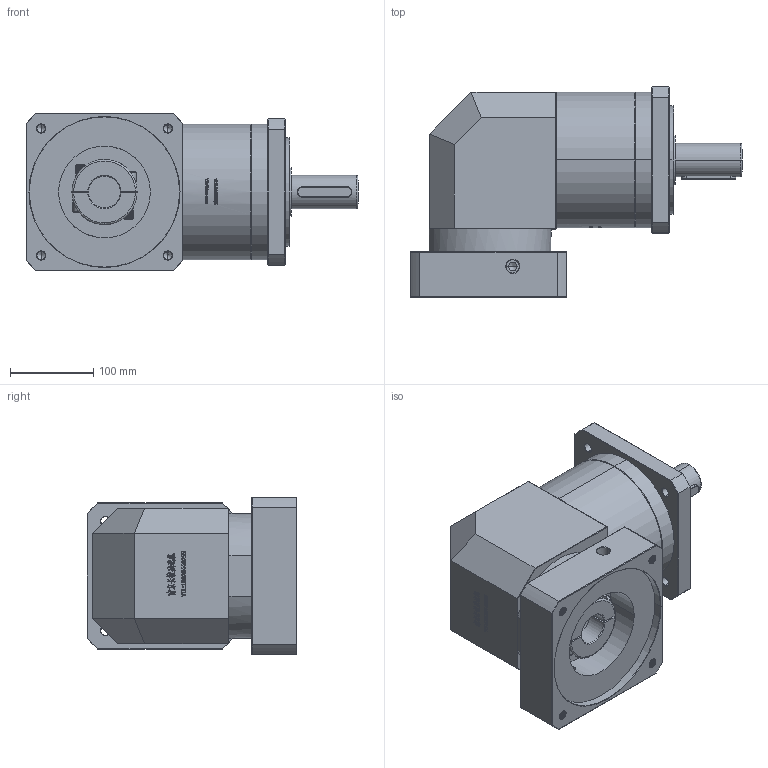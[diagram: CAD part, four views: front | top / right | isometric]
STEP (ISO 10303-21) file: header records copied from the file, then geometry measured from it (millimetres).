
FILE_DESCRIPTION (( 'STEP AP214' ), '1' );
FILE_NAME ('ZFR160A-D40-L2-38-180-215-M12.step', '2023-03-22T11:45:13', ( '' ), ( '' ), 'SwSTEP 2.0', 'SolidWorks 2016', '' );
FILE_SCHEMA (( 'AUTOMOTIVE_DESIGN' ));
Length unit declared in the file: millimetre
Products named in the file (1): ZFR160A-D40-L2-38-180-215-M12
Bounding box: 397.7 x 251.5 x 188 mm (x, y, z)
Volume: 8080128.2 mm3; surface area: 501671.2 mm2
Topology: 6 solids, 6 shells, 2500 faces, 6564 edges, 4218 vertices
Faces by surface type: plane 1273, bspline 497, cylinder 401, cone 307, torus 22
Entity records: 141698 total; most frequent: CARTESIAN_POINT 56897, ORIENTED_EDGE 13068, DIRECTION 9940, EDGE_CURVE 6534, VERTEX_POINT 4218, LINE 4144, VECTOR 4144, AXIS2_PLACEMENT_3D 2898
